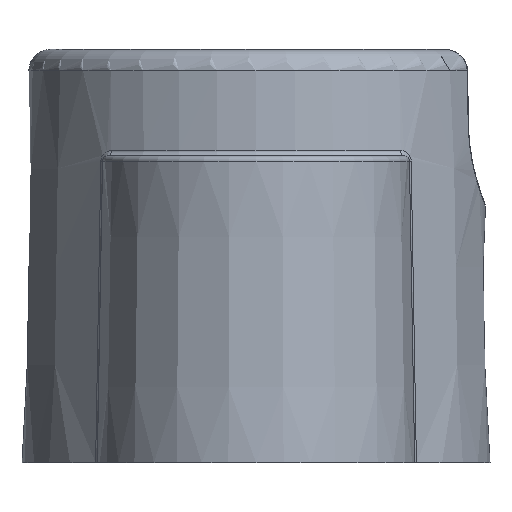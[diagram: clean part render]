
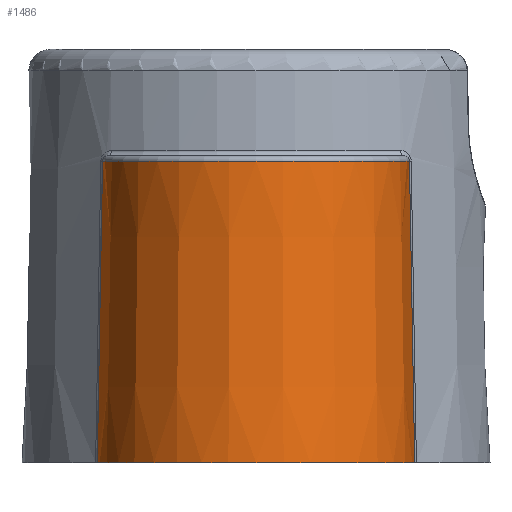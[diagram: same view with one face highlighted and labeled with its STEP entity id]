
A CAD part, left-side view. The second image highlights one B-rep face of the part: STEP entity #1486.
In plain terms, the highlighted conical face has half-angle 1 degrees and reference radius 14.75 mm.
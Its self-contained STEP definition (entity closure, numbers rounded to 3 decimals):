
#25=CONICAL_SURFACE('',#1645,14.75,0.017);
#85=LINE('',#3752,#144);
#86=LINE('',#3754,#145);
#144=VECTOR('',#1970,10.);
#145=VECTOR('',#1973,10.);
#400=FACE_OUTER_BOUND('',#490,.T.);
#490=EDGE_LOOP('',(#1347,#1348,#1349,#1350));
#543=CIRCLE('',#1606,14.75);
#561=CIRCLE('',#1639,14.261);
#669=VERTEX_POINT('',#3077);
#670=VERTEX_POINT('',#3079);
#704=VERTEX_POINT('',#3738);
#705=VERTEX_POINT('',#3742);
#860=EDGE_CURVE('',#670,#669,#543,.T.);
#927=EDGE_CURVE('',#704,#705,#561,.T.);
#931=EDGE_CURVE('',#669,#705,#85,.T.);
#932=EDGE_CURVE('',#670,#704,#86,.T.);
#1347=ORIENTED_EDGE('',*,*,#927,.F.);
#1348=ORIENTED_EDGE('',*,*,#932,.F.);
#1349=ORIENTED_EDGE('',*,*,#860,.T.);
#1350=ORIENTED_EDGE('',*,*,#931,.T.);
#1486=ADVANCED_FACE('',(#400),#25,.T.);
#1606=AXIS2_PLACEMENT_3D('',#3080,#1878,#1879);
#1639=AXIS2_PLACEMENT_3D('',#3744,#1957,#1958);
#1645=AXIS2_PLACEMENT_3D('',#3753,#1971,#1972);
#1878=DIRECTION('center_axis',(0.,0.,1.));
#1879=DIRECTION('ref_axis',(0.,1.,0.));
#1957=DIRECTION('center_axis',(0.,0.,
1.));
#1958=DIRECTION('ref_axis',(-1.,0.,0.));
#1970=DIRECTION('',(0.,0.017,1.));
#1971=DIRECTION('center_axis',(0.,0.,-1.));
#1972=DIRECTION('ref_axis',(0.,1.,0.));
#1973=DIRECTION('',(0.,-0.017,1.));
#3077=CARTESIAN_POINT('',(-30.,-14.75,0.));
#3079=CARTESIAN_POINT('',(-30.,14.75,0.));
#3080=CARTESIAN_POINT('Origin',(-30.,0.,0.));
#3738=CARTESIAN_POINT('',(-30.,14.261,28.009));
#3742=CARTESIAN_POINT('',(-30.,-14.261,28.009));
#3744=CARTESIAN_POINT('Origin',(-30.,0.,28.009));
#3752=CARTESIAN_POINT('',(-30.,-14.75,0.));
#3753=CARTESIAN_POINT('Origin',(-30.,0.,0.));
#3754=CARTESIAN_POINT('',(-30.,14.75,0.));
